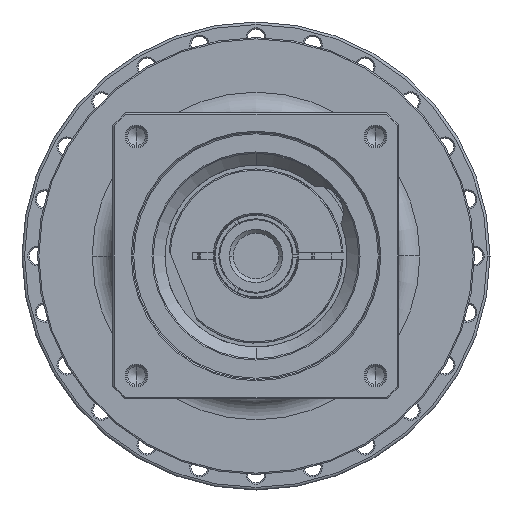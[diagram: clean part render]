
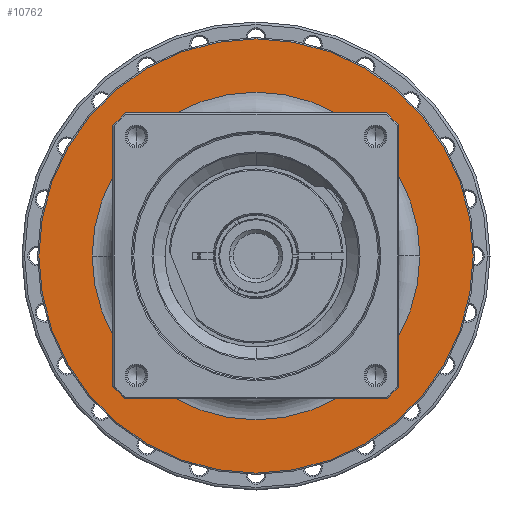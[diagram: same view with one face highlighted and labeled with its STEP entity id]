
A CAD part, left-side view. The second image highlights one B-rep face of the part: STEP entity #10762.
In plain terms, the highlighted planar face has unit normal (-1, 0, 0) as drawn and (1, 0, 0) by its records, which use the part's own axes.
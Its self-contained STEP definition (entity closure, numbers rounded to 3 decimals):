
#10241=CARTESIAN_POINT('',(-19.,0.,0.));
#10242=DIRECTION('',(-1.,0.,0.));
#10243=DIRECTION('',(0.,-1.,0.));
#10244=AXIS2_PLACEMENT_3D('',#10241,#10242,#10243);
#10246=CARTESIAN_POINT('',(-19.,0.,0.));
#10247=DIRECTION('',(-1.,0.,0.));
#10248=DIRECTION('',(0.,1.,0.));
#10249=AXIS2_PLACEMENT_3D('',#10246,#10247,#10248);
#10251=CARTESIAN_POINT('',(-19.,0.,0.));
#10252=DIRECTION('',(-1.,0.,0.));
#10253=DIRECTION('',(0.,-1.,0.));
#10254=AXIS2_PLACEMENT_3D('',#10251,#10252,#10253);
#10256=CARTESIAN_POINT('',(-19.,0.,0.));
#10257=DIRECTION('',(-1.,0.,0.));
#10258=DIRECTION('',(0.,1.,0.));
#10259=AXIS2_PLACEMENT_3D('',#10256,#10257,#10258);
#10325=CARTESIAN_POINT('',(-19.,-83.5,0.));
#10326=CARTESIAN_POINT('',(-19.,83.5,0.));
#10327=VERTEX_POINT('',#10325);
#10328=VERTEX_POINT('',#10326);
#10349=CARTESIAN_POINT('',(-19.,-63.,0.));
#10350=CARTESIAN_POINT('',(-19.,63.,0.));
#10351=VERTEX_POINT('',#10349);
#10352=VERTEX_POINT('',#10350);
#10747=CARTESIAN_POINT('',(-19.,0.,0.));
#10748=DIRECTION('',(1.,0.,0.));
#10749=DIRECTION('',(0.,-1.,0.));
#10750=AXIS2_PLACEMENT_3D('',#10747,#10748,#10749);
#10751=PLANE('',#10750);
#10752=ORIENTED_EDGE('',*,*,#10688,.T.);
#10753=ORIENTED_EDGE('',*,*,#10703,.T.);
#10754=EDGE_LOOP('',(#10752,#10753));
#10755=FACE_OUTER_BOUND('',#10754,.F.);
#10757=ORIENTED_EDGE('',*,*,#10756,.F.);
#10759=ORIENTED_EDGE('',*,*,#10758,.F.);
#10760=EDGE_LOOP('',(#10757,#10759));
#10761=FACE_BOUND('',#10760,.F.);
#10762=ADVANCED_FACE('',(#10755,#10761),#10751,.T.);
#10245=CIRCLE('',#10244,63.);
#10250=CIRCLE('',#10249,63.);
#10255=CIRCLE('',#10254,83.5);
#10260=CIRCLE('',#10259,83.5);
#10688=EDGE_CURVE('',#10327,#10328,#10255,.T.);
#10703=EDGE_CURVE('',#10328,#10327,#10260,.T.);
#10756=EDGE_CURVE('',#10351,#10352,#10245,.T.);
#10758=EDGE_CURVE('',#10352,#10351,#10250,.T.);
